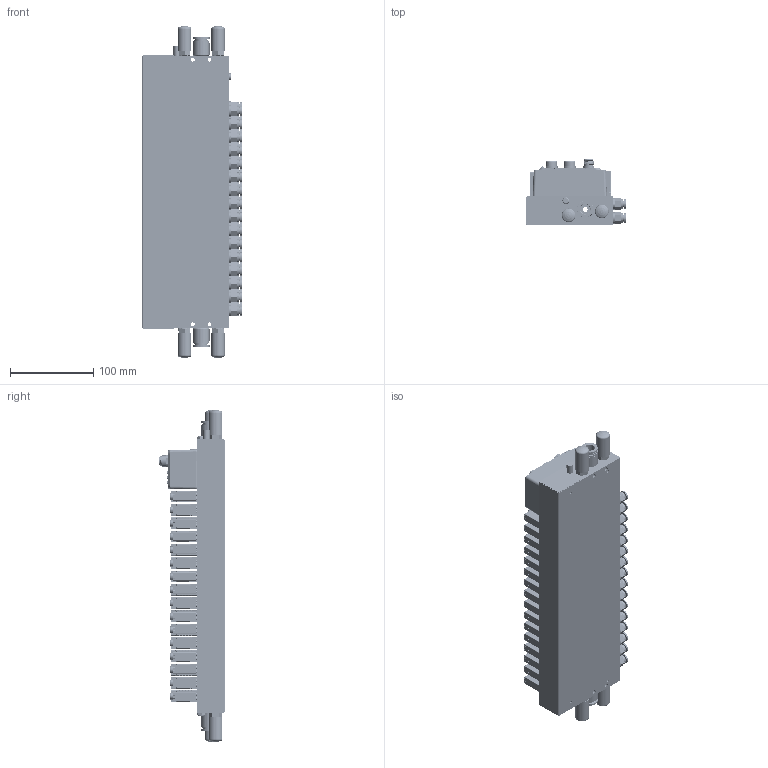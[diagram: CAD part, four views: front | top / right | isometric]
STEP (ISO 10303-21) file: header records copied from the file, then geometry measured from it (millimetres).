
FILE_DESCRIPTION(/* description */ (''),/* implementation_level */ '2;1');
FILE_NAME(/* name */ 'EV-XX-F2-16-X-XX-XX-A-X-C.stp',/* time_stamp */ '2025-09-29T13:41:26+08:00',/* author */ (''),/* organization */ (''),/* preprocessor_version */ 'ST-DEVELOPER v19.4',/* originating_system */ 'SIEMENS PLM Software NX2212.7001',/* authorisation */ '');
FILE_SCHEMA (('AUTOMOTIVE_DESIGN { 1 0 10303 214 3 1 1 1 }'));
Products named in the file (1): EV-EC-F2-A1B9X2-L-12-06-A-I-C_objects
Bounding box: 119.9 x 78.8 x 399 mm (x, y, z)
Volume: 1474258.6 mm3; surface area: 479760 mm2
Topology: 57 solids, 110 shells, 15246 faces, 39399 edges, 24930 vertices
Faces by surface type: cylinder 6598, plane 5938, torus 1481, cone 511, bspline 368, sphere 348, extrusion 2
Full cylindrical faces by diameter (mm): 1 x5, 1.05 x5, 1.2 x8, 1.4 x16, 1.5 x16, 1.7 x8, 2.05 x36, 2.15 x2, 2.3 x4, 2.48 x4, 2.5 x3, 2.8 x4, 3.3 x2, 3.446 x6, 3.5 x7, 3.7 x1, 4 x2, 4.134 x5, 4.3 x4, 4.5 x4, 5.1 x32, 5.3 x32, 5.4 x2, 5.5 x98, 6 x16, 6.2 x64, 8 x10, 8.1 x32, 8.3 x1, 8.566 x32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
Entity records: 564700 total; most frequent: CARTESIAN_POINT 108331, DIRECTION 81066, ORIENTED_EDGE 76006, EDGE_CURVE 38003, AXIS2_PLACEMENT_3D 30743, VERTEX_POINT 24474, VECTOR 19580, LINE 19578
